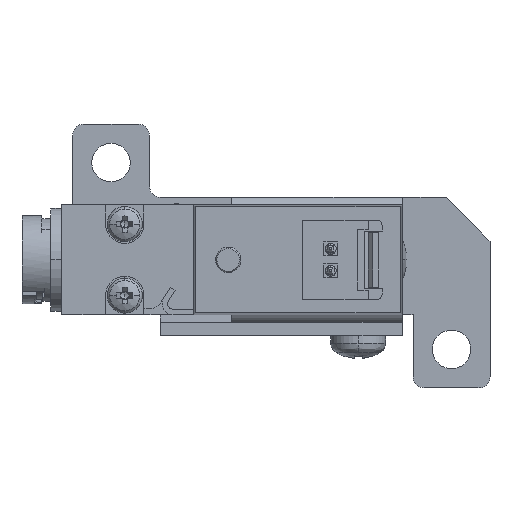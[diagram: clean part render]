
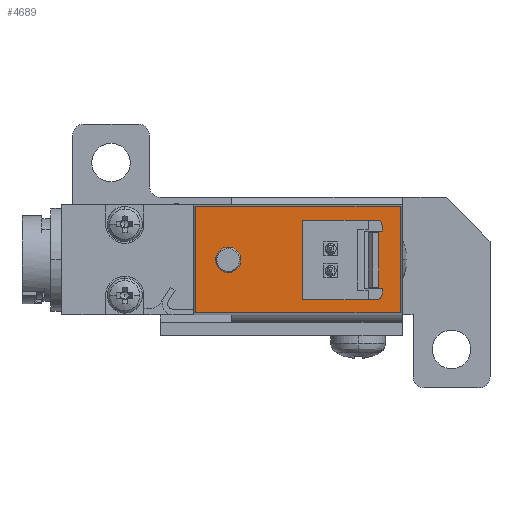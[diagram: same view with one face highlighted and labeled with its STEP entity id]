
A CAD part, left-side view. The second image highlights one B-rep face of the part: STEP entity #4689.
In plain terms, the highlighted planar face has unit normal (-1, 0, 0) as drawn and (0, 0, 1) by its records, which use the part's own axes.
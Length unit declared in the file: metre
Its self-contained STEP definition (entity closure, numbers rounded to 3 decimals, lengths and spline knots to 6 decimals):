
#28 = EDGE_LOOP ( 'NONE', ( #16697, #6043 ) ) ;
#166 = CARTESIAN_POINT ( 'NONE',  ( 0., 0.016825, 0.005 ) ) ;
#385 = LINE ( 'NONE', #14805, #15688 ) ;
#694 = EDGE_CURVE ( 'NONE', #8587, #10747, #13159, .T. ) ;
#1352 = CARTESIAN_POINT ( 'NONE',  ( 0., 0.001175, 0.005 ) ) ;
#1491 = CARTESIAN_POINT ( 'NONE',  ( 0.004825, 0.001175, 0.005 ) ) ;
#1654 = DIRECTION ( 'NONE',  ( -1., 0., 0. ) ) ;
#1656 = ORIENTED_EDGE ( 'NONE', *, *, #6056, .F. ) ;
#1723 = CARTESIAN_POINT ( 'NONE',  ( 0.00115, 0.016825, 0.005 ) ) ;
#2009 = DIRECTION ( 'NONE',  ( 0., -1., 0. ) ) ;
#2161 = AXIS2_PLACEMENT_3D ( 'NONE', #13116, #4240, #14600 ) ;
#2965 = FACE_BOUND ( 'NONE', #11802, .T. ) ;
#3000 = DIRECTION ( 'NONE',  ( -1., 0., 0. ) ) ;
#3251 = ORIENTED_EDGE ( 'NONE', *, *, #14591, .F. ) ;
#3355 = CARTESIAN_POINT ( 'NONE',  ( -0.0005, 0.0075, 0.005 ) ) ;
#3509 = CARTESIAN_POINT ( 'NONE',  ( 0.004825, 0.0105, 0.005 ) ) ;
#3840 = EDGE_CURVE ( 'NONE', #17430, #6772, #15680, .T. ) ;
#4240 = DIRECTION ( 'NONE',  ( 0., 0., -1. ) ) ;
#4689 = ADVANCED_FACE ( 'NONE', ( #14324, #18777, #2965, #18310 ), #10323, .F. ) ;
#4754 = VECTOR ( 'NONE', #2009, 1. ) ;
#4952 = CARTESIAN_POINT ( 'NONE',  ( 0.0015, 0.0075, 0.005 ) ) ;
#5103 = VERTEX_POINT ( 'NONE', #18989 ) ;
#5699 = AXIS2_PLACEMENT_3D ( 'NONE', #1491, #11845, #3000 ) ;
#5893 = DIRECTION ( 'NONE',  ( -1., 0., 0. ) ) ;
#6043 = ORIENTED_EDGE ( 'NONE', *, *, #15839, .F. ) ;
#6056 = EDGE_CURVE ( 'NONE', #10747, #5103, #16612, .T. ) ;
#6126 = CARTESIAN_POINT ( 'NONE',  ( 0.0015, 0.0075, 0.005 ) ) ;
#6309 = CARTESIAN_POINT ( 'NONE',  ( -0.0015, 0.0075, 0.005 ) ) ;
#6439 = CARTESIAN_POINT ( 'NONE',  ( 0.0015, 0.0085, 0.005 ) ) ;
#6706 = EDGE_CURVE ( 'NONE', #8602, #18075, #16537, .T. ) ;
#6721 = CIRCLE ( 'NONE', #2161, 0.00115 ) ;
#6772 = VERTEX_POINT ( 'NONE', #12643 ) ;
#7092 = CARTESIAN_POINT ( 'NONE',  ( -0.004825, 0.001175, 0.005 ) ) ;
#7288 = CARTESIAN_POINT ( 'NONE',  ( 0.0005, 0.0075, 0.005 ) ) ;
#7410 = DIRECTION ( 'NONE',  ( 0., 1., 0. ) ) ;
#7430 = ORIENTED_EDGE ( 'NONE', *, *, #10005, .T. ) ;
#7490 = CARTESIAN_POINT ( 'NONE',  ( 0.0005, 0.0065, 0.005 ) ) ;
#7597 = VECTOR ( 'NONE', #5893, 1. ) ;
#7685 = EDGE_LOOP ( 'NONE', ( #17867, #3251, #13803, #1656 ) ) ;
#7935 = CARTESIAN_POINT ( 'NONE',  ( 0.0005, 0.0085, 0.005 ) ) ;
#8051 = LINE ( 'NONE', #1352, #7597 ) ;
#8056 =( BOUNDED_CURVE ( )  B_SPLINE_CURVE ( 3, ( #13507, #7490, #15008, #6126 ),
 .UNSPECIFIED., .F., .F. ) 
 B_SPLINE_CURVE_WITH_KNOTS ( ( 4, 4 ),
 ( 0., 0.001563 ),
 .UNSPECIFIED. ) 
 CURVE ( )  GEOMETRIC_REPRESENTATION_ITEM ( )  RATIONAL_B_SPLINE_CURVE ( ( 0.957, 0.319, 0.319, 0.957 ) ) 
 REPRESENTATION_ITEM ( '' )  );
#8185 = CARTESIAN_POINT ( 'NONE',  ( 0.0015, 0.0075, 0.005 ) ) ;
#8363 = EDGE_CURVE ( 'NONE', #15872, #16137, #13515, .T. ) ;
#8587 = VERTEX_POINT ( 'NONE', #11025 ) ;
#8602 = VERTEX_POINT ( 'NONE', #8185 ) ;
#9174 = VECTOR ( 'NONE', #11060, 1. ) ;
#9286 = ORIENTED_EDGE ( 'NONE', *, *, #17667, .F. ) ;
#10005 = EDGE_CURVE ( 'NONE', #16137, #15872, #6721, .T. ) ;
#10023 = AXIS2_PLACEMENT_3D ( 'NONE', #166, #10491, #1654 ) ;
#10323 = PLANE ( 'NONE',  #5699 ) ;
#10400 = ORIENTED_EDGE ( 'NONE', *, *, #8363, .T. ) ;
#10491 = DIRECTION ( 'NONE',  ( 0., 0., -1. ) ) ;
#10747 = VERTEX_POINT ( 'NONE', #17094 ) ;
#10907 =( BOUNDED_CURVE ( )  B_SPLINE_CURVE ( 3, ( #3355, #16651, #15194, #6309 ),
 .UNSPECIFIED., .F., .F. ) 
 B_SPLINE_CURVE_WITH_KNOTS ( ( 4, 4 ),
 ( 0., 0.001563 ),
 .UNSPECIFIED. ) 
 CURVE ( )  GEOMETRIC_REPRESENTATION_ITEM ( )  RATIONAL_B_SPLINE_CURVE ( ( 0.957, 0.319, 0.319, 0.957 ) ) 
 REPRESENTATION_ITEM ( '' )  );
#11006 = CARTESIAN_POINT ( 'NONE',  ( 0., 0.019825, 0.005 ) ) ;
#11025 = CARTESIAN_POINT ( 'NONE',  ( -0.004825, 0.019825, 0.005 ) ) ;
#11060 = DIRECTION ( 'NONE',  ( 1., 0., 0. ) ) ;
#11149 = CARTESIAN_POINT ( 'NONE',  ( -0.00115, 0.016825, 0.005 ) ) ;
#11802 = EDGE_LOOP ( 'NONE', ( #14219, #9286 ) ) ;
#11845 = DIRECTION ( 'NONE',  ( 0., 0., -1. ) ) ;
#12643 = CARTESIAN_POINT ( 'NONE',  ( -0.0005, 0.0075, 0.005 ) ) ;
#13116 = CARTESIAN_POINT ( 'NONE',  ( 0., 0.016825, 0.005 ) ) ;
#13159 = LINE ( 'NONE', #11006, #9174 ) ;
#13311 = EDGE_CURVE ( 'NONE', #5103, #16300, #8051, .T. ) ;
#13507 = CARTESIAN_POINT ( 'NONE',  ( 0.0005, 0.0075, 0.005 ) ) ;
#13515 = CIRCLE ( 'NONE', #10023, 0.00115 ) ;
#13803 = ORIENTED_EDGE ( 'NONE', *, *, #13311, .F. ) ;
#13862 = CARTESIAN_POINT ( 'NONE',  ( -0.0005, 0.0075, 0.005 ) ) ;
#14003 = CARTESIAN_POINT ( 'NONE',  ( -0.0015, 0.0065, 0.005 ) ) ;
#14219 = ORIENTED_EDGE ( 'NONE', *, *, #3840, .F. ) ;
#14324 = FACE_BOUND ( 'NONE', #14873, .T. ) ;
#14591 = EDGE_CURVE ( 'NONE', #16300, #8587, #385, .T. ) ;
#14600 = DIRECTION ( 'NONE',  ( -1., 0., 0. ) ) ;
#14805 = CARTESIAN_POINT ( 'NONE',  ( -0.004825, 0.0105, 0.005 ) ) ;
#14873 = EDGE_LOOP ( 'NONE', ( #7430, #10400 ) ) ;
#15008 = CARTESIAN_POINT ( 'NONE',  ( 0.0015, 0.0065, 0.005 ) ) ;
#15194 = CARTESIAN_POINT ( 'NONE',  ( -0.0015, 0.0085, 0.005 ) ) ;
#15361 = CARTESIAN_POINT ( 'NONE',  ( -0.0015, 0.0075, 0.005 ) ) ;
#15680 =( BOUNDED_CURVE ( )  B_SPLINE_CURVE ( 3, ( #15361, #14003, #16878, #13862 ),
 .UNSPECIFIED., .F., .T. ) 
 B_SPLINE_CURVE_WITH_KNOTS ( ( 4, 4 ),
 ( 0., 0.001563 ),
 .UNSPECIFIED. ) 
 CURVE ( )  GEOMETRIC_REPRESENTATION_ITEM ( )  RATIONAL_B_SPLINE_CURVE ( ( 0.957, 0.319, 0.319, 0.957 ) ) 
 REPRESENTATION_ITEM ( '' )  );
#15688 = VECTOR ( 'NONE', #7410, 1. ) ;
#15839 = EDGE_CURVE ( 'NONE', #18075, #8602, #8056, .T. ) ;
#15872 = VERTEX_POINT ( 'NONE', #1723 ) ;
#15932 = CARTESIAN_POINT ( 'NONE',  ( -0.0015, 0.0075, 0.005 ) ) ;
#16137 = VERTEX_POINT ( 'NONE', #11149 ) ;
#16300 = VERTEX_POINT ( 'NONE', #7092 ) ;
#16537 =( BOUNDED_CURVE ( )  B_SPLINE_CURVE ( 3, ( #4952, #6439, #7935, #18356 ),
 .UNSPECIFIED., .F., .T. ) 
 B_SPLINE_CURVE_WITH_KNOTS ( ( 4, 4 ),
 ( 0., 0.001563 ),
 .UNSPECIFIED. ) 
 CURVE ( )  GEOMETRIC_REPRESENTATION_ITEM ( )  RATIONAL_B_SPLINE_CURVE ( ( 0.957, 0.319, 0.319, 0.957 ) ) 
 REPRESENTATION_ITEM ( '' )  );
#16612 = LINE ( 'NONE', #3509, #4754 ) ;
#16651 = CARTESIAN_POINT ( 'NONE',  ( -0.0005, 0.0085, 0.005 ) ) ;
#16697 = ORIENTED_EDGE ( 'NONE', *, *, #6706, .F. ) ;
#16878 = CARTESIAN_POINT ( 'NONE',  ( -0.0005, 0.0065, 0.005 ) ) ;
#17094 = CARTESIAN_POINT ( 'NONE',  ( 0.004825, 0.019825, 0.005 ) ) ;
#17430 = VERTEX_POINT ( 'NONE', #15932 ) ;
#17667 = EDGE_CURVE ( 'NONE', #6772, #17430, #10907, .T. ) ;
#17867 = ORIENTED_EDGE ( 'NONE', *, *, #694, .F. ) ;
#18075 = VERTEX_POINT ( 'NONE', #7288 ) ;
#18310 = FACE_OUTER_BOUND ( 'NONE', #7685, .T. ) ;
#18356 = CARTESIAN_POINT ( 'NONE',  ( 0.0005, 0.0075, 0.005 ) ) ;
#18777 = FACE_BOUND ( 'NONE', #28, .T. ) ;
#18989 = CARTESIAN_POINT ( 'NONE',  ( 0.004825, 0.001175, 0.005 ) ) ;
